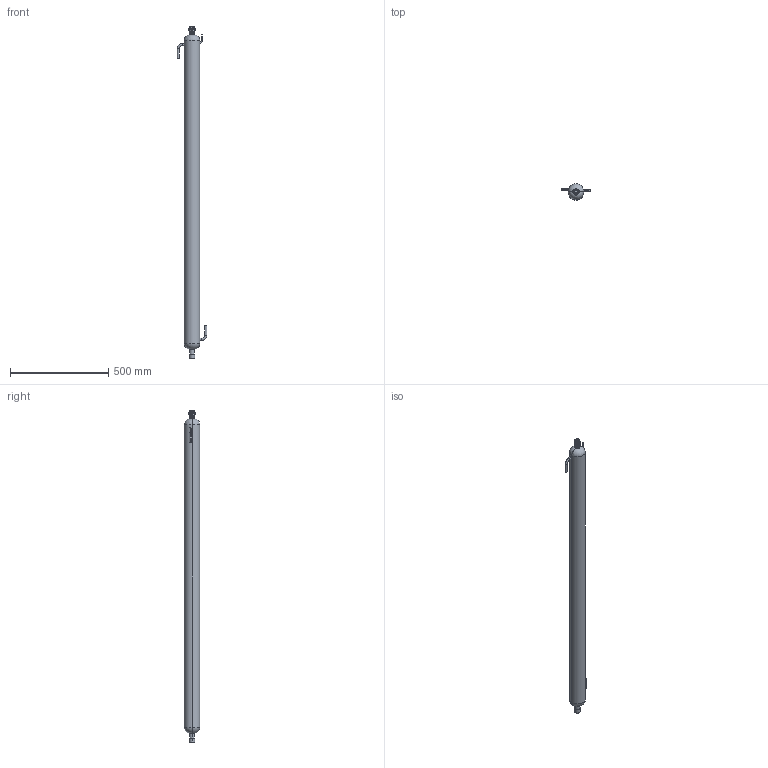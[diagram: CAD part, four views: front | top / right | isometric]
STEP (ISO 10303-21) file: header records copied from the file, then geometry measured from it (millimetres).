
FILE_DESCRIPTION (( 'STEP AP203' ), '1' );
FILE_NAME ('130W-1690-80蚾饜极.STEP', '2024-03-06T08:09:11', ( 'Microwin10' ), ( '' ), 'SwSTEP 2.0', 'SolidWorks 2020', '' );
FILE_SCHEMA (( 'CONFIG_CONTROL_DESIGN' ));
Length unit declared in the file: millimetre
Products named in the file (3): 130W-1690-80蚾饜极; 130俓-1690-80; 苤錨璃
Assembly tree (2 placements, depth 2):
  130W-1690-80蚾饜极
    130俓-1690-80
    苤錨璃
Bounding box: 150 x 80 x 1690 mm (x, y, z)
Volume: 8017521.4 mm3; surface area: 426078.8 mm2
Topology: 3 solids, 3 shells, 428 faces, 1188 edges, 732 vertices
Faces by surface type: cylinder 238, plane 94, bspline 60, torus 20, cone 16
Entity records: 56438 total; most frequent: CARTESIAN_POINT 47092, ORIENTED_EDGE 2368, DIRECTION 1428, EDGE_CURVE 1184, VERTEX_POINT 732, AXIS2_PLACEMENT_3D 537, EDGE_LOOP 456, FACE_OUTER_BOUND 428
